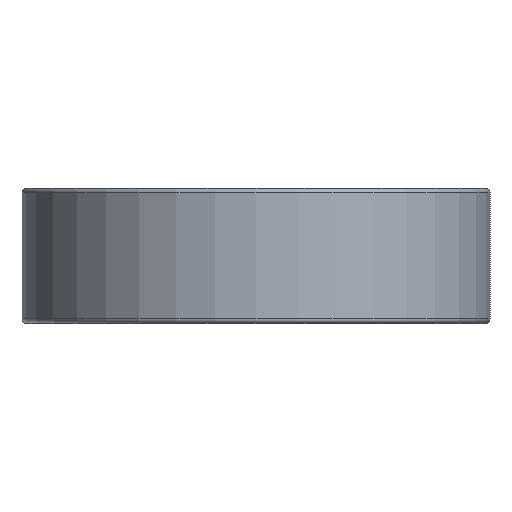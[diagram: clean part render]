
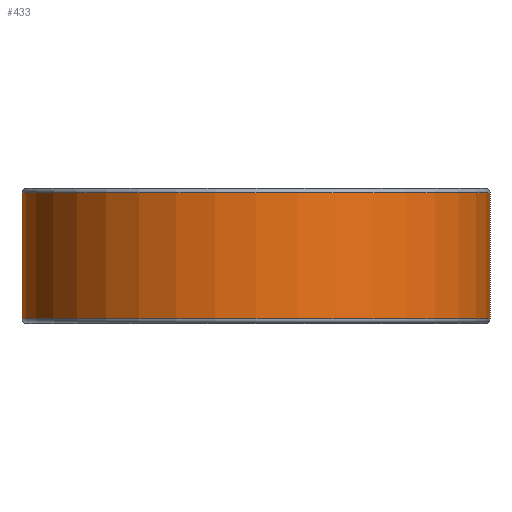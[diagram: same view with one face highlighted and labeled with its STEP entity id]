
A CAD part, front view. The second image highlights one B-rep face of the part: STEP entity #433.
In plain terms, the highlighted cylindrical face has radius 26 mm (diameter 52 mm), a full revolution.
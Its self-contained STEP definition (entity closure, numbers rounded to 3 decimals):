
#364=FACE_BOUND('',#572,.T.);
#365=FACE_BOUND('',#573,.T.);
#433=ADVANCED_FACE('',(#364,#365),#502,.T.);
#502=CYLINDRICAL_SURFACE('',#1407,26.);
#572=EDGE_LOOP('',(#745));
#573=EDGE_LOOP('',(#746));
#677=CIRCLE('',#1405,26.);
#678=CIRCLE('',#1406,26.);
#745=ORIENTED_EDGE('',*,*,#1119,.T.);
#746=ORIENTED_EDGE('',*,*,#1120,.T.);
#1017=VERTEX_POINT('',#1969);
#1018=VERTEX_POINT('',#1971);
#1119=EDGE_CURVE('',#1017,#1017,#677,.T.);
#1120=EDGE_CURVE('',#1018,#1018,#678,.T.);
#1405=AXIS2_PLACEMENT_3D('',#1968,#1555,#1556);
#1406=AXIS2_PLACEMENT_3D('',#1970,#1557,#1558);
#1407=AXIS2_PLACEMENT_3D('',#1972,#1559,#1560);
#1555=DIRECTION('',(0.,0.,-1.));
#1556=DIRECTION('',(1.,0.,0.));
#1557=DIRECTION('',(0.,0.,1.));
#1558=DIRECTION('',(1.,0.,0.));
#1559=DIRECTION('',(0.,0.,-1.));
#1560=DIRECTION('',(-1.,0.,0.));
#1968=CARTESIAN_POINT('',(0.,0.,14.5));
#1969=CARTESIAN_POINT('',(26.,0.,14.5));
#1970=CARTESIAN_POINT('',(0.,0.,0.5));
#1971=CARTESIAN_POINT('',(26.,0.,0.5));
#1972=CARTESIAN_POINT('',(0.,0.,15.));
